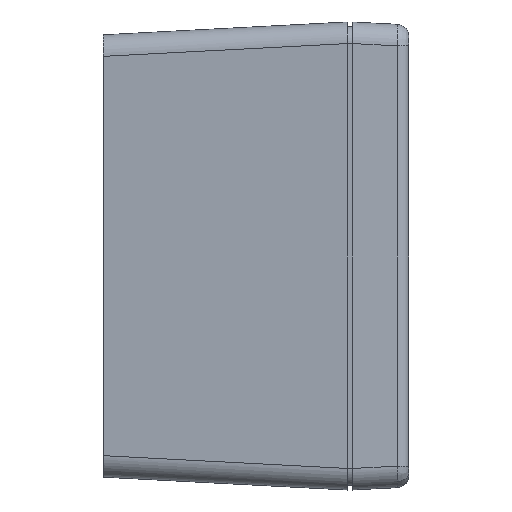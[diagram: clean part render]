
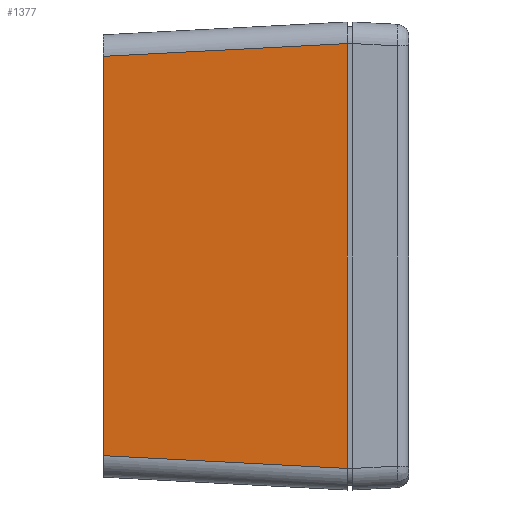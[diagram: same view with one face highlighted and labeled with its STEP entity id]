
A CAD part, left-side view. The second image highlights one B-rep face of the part: STEP entity #1377.
In plain terms, the highlighted planar face has unit normal (-0.999, 0.052, 0).
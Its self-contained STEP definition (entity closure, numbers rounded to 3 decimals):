
#1 = LINE ( 'NONE', #973, #1280 ) ;
#160 = FACE_OUTER_BOUND ( 'NONE', #1918, .T. ) ;
#627 = VERTEX_POINT ( 'NONE', #6826 ) ;
#638 = CARTESIAN_POINT ( 'NONE',  ( -67.75, 0., -37.75 ) ) ;
#727 = LINE ( 'NONE', #6245, #5251 ) ;
#735 = DIRECTION ( 'NONE',  ( 0.052, 0.999, 0. ) ) ;
#973 = CARTESIAN_POINT ( 'NONE',  ( -67.552, 3.774, 34.457 ) ) ;
#1058 = PLANE ( 'NONE',  #5987 ) ;
#1280 = VECTOR ( 'NONE', #4791, 1000. ) ;
#1377 = ADVANCED_FACE ( 'NONE', ( #160 ), #1058, .F. ) ;
#1408 = ORIENTED_EDGE ( 'NONE', *, *, #6972, .T. ) ;
#1918 = EDGE_LOOP ( 'NONE', ( #4072, #4568, #1408, #6576 ) ) ;
#2084 = LINE ( 'NONE', #6312, #6428 ) ;
#2716 = CARTESIAN_POINT ( 'NONE',  ( -65.675, 39.6, -32.179 ) ) ;
#2909 = VERTEX_POINT ( 'NONE', #2716 ) ;
#2985 = DIRECTION ( 'NONE',  ( -0.052, -0.997, -0.052 ) ) ;
#3590 = VECTOR ( 'NONE', #6368, 1000. ) ;
#3699 = VERTEX_POINT ( 'NONE', #5123 ) ;
#4072 = ORIENTED_EDGE ( 'NONE', *, *, #6070, .F. ) ;
#4165 = CARTESIAN_POINT ( 'NONE',  ( -67.75, 0., 34.655 ) ) ;
#4168 = DIRECTION ( 'NONE',  ( 0.999, -0.052, 0. ) ) ;
#4250 = EDGE_CURVE ( 'NONE', #2909, #3699, #727, .T. ) ;
#4537 = LINE ( 'NONE', #6914, #3590 ) ;
#4568 = ORIENTED_EDGE ( 'NONE', *, *, #4250, .T. ) ;
#4791 = DIRECTION ( 'NONE',  ( 0.052, 0.997, -0.052 ) ) ;
#5123 = CARTESIAN_POINT ( 'NONE',  ( -67.75, 0., -34.255 ) ) ;
#5251 = VECTOR ( 'NONE', #2985, 1000. ) ;
#5706 = VERTEX_POINT ( 'NONE', #4165 ) ;
#5987 = AXIS2_PLACEMENT_3D ( 'NONE', #638, #4168, #735 ) ;
#6070 = EDGE_CURVE ( 'NONE', #2909, #627, #2084, .T. ) ;
#6245 = CARTESIAN_POINT ( 'NONE',  ( -67.76, -0.182, -34.264 ) ) ;
#6312 = CARTESIAN_POINT ( 'NONE',  ( -65.675, 39.6, -37.75 ) ) ;
#6368 = DIRECTION ( 'NONE',  ( 0., 0., 1. ) ) ;
#6428 = VECTOR ( 'NONE', #6855, 1000. ) ;
#6576 = ORIENTED_EDGE ( 'NONE', *, *, #7040, .T. ) ;
#6826 = CARTESIAN_POINT ( 'NONE',  ( -65.675, 39.6, 32.579 ) ) ;
#6855 = DIRECTION ( 'NONE',  ( 0., 0., 1. ) ) ;
#6914 = CARTESIAN_POINT ( 'NONE',  ( -67.75, 0., -37.75 ) ) ;
#6972 = EDGE_CURVE ( 'NONE', #3699, #5706, #4537, .T. ) ;
#7040 = EDGE_CURVE ( 'NONE', #5706, #627, #1, .T. ) ;
